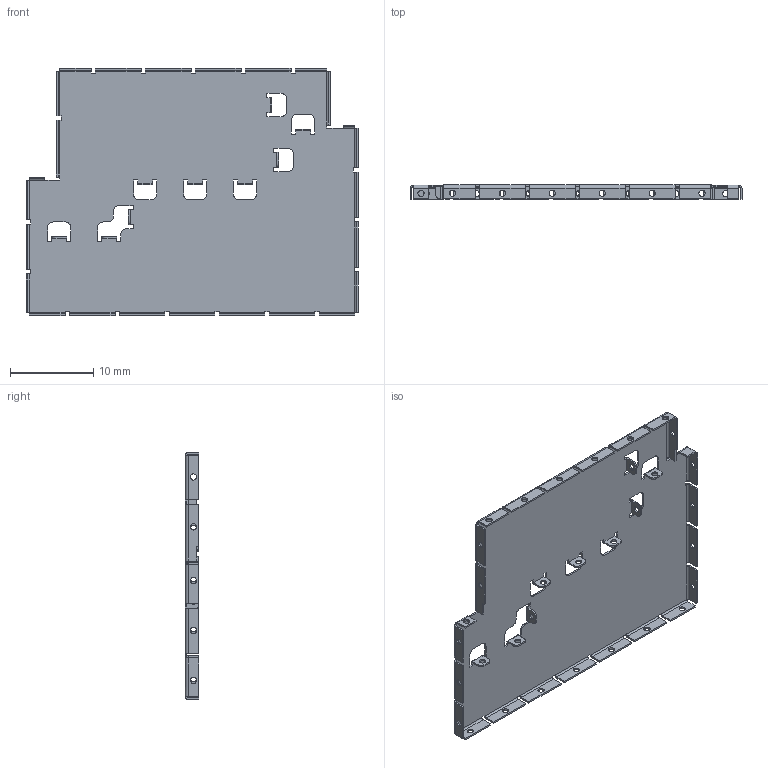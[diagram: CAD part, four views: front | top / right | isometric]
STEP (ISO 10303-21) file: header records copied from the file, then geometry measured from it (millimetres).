
FILE_DESCRIPTION((''),'2;1');
FILE_NAME('GTC01-A-MCS02-RF-COVER_PRT','2008-06-30T',('GRA'),(''),'PRO/ENGINEER BY PARAMETRIC TECHNOLOGY CORPORATION, 2006170','PRO/ENGINEER BY PARAMETRIC TECHNOLOGY CORPORATION, 2006170','');
FILE_SCHEMA(('CONFIG_CONTROL_DESIGN'));
Length unit declared in the file: millimetre
Products named in the file (1): GTC01-A-MCS02-RF-COVER_PRT
Bounding box: 39.9 x 1.65 x 29.7 mm (x, y, z)
Volume: 245.3 mm3; surface area: 2537.5 mm2
Topology: 1 solids, 1 shells, 547 faces, 1363 edges, 818 vertices
Faces by surface type: plane 386, cylinder 161
Entity records: 16097 total; most frequent: DIRECTION 2791, CARTESIAN_POINT 2728, ORIENTED_EDGE 2726, EDGE_CURVE 1363, VECTOR 1029, LINE 1029, AXIS2_PLACEMENT_3D 881, VERTEX_POINT 818
